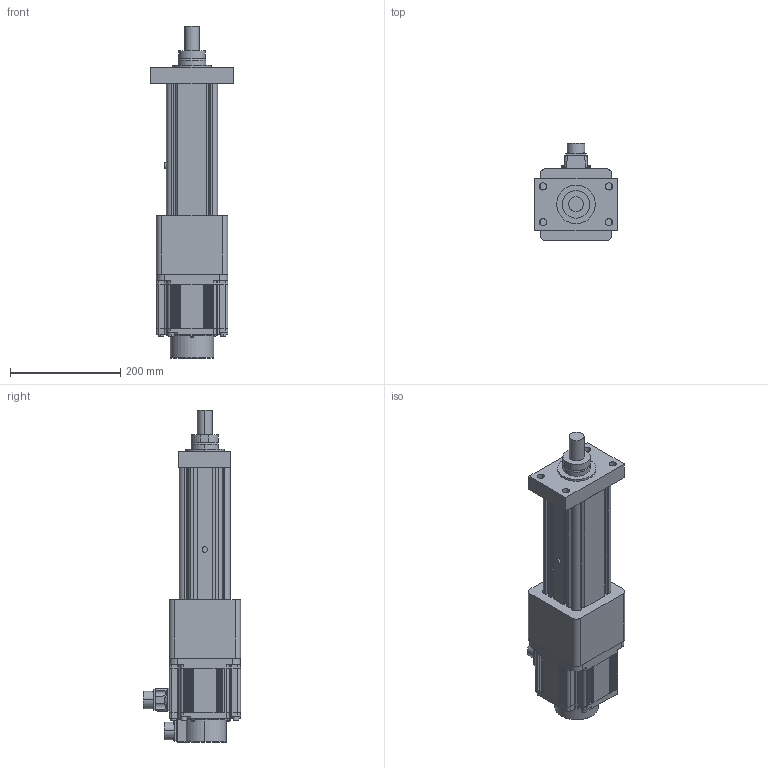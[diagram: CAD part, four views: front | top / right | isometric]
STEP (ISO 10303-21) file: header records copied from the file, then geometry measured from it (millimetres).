
FILE_DESCRIPTION (( 'STEP AP203' ), '1' );
FILE_NAME ('S4眻盄ヶ楊擘假蚾.STEP', '2024-05-27T05:29:17', ( '' ), ( '' ), 'SwSTEP 2.0', 'SolidWorks 2018', '' );
FILE_SCHEMA (( 'CONFIG_CONTROL_DESIGN' ));
Length unit declared in the file: millimetre
Products named in the file (3): S4眻盄ヶ楊擘假蚾; S4眻盄ヶ楊擘; ECMA-FX1308ES-130框號系列機種-0.85KW高慣量系列
Assembly tree (2 placements, depth 2):
  S4眻盄ヶ楊擘假蚾
    S4眻盄ヶ楊擘
    ECMA-FX1308ES-130框號系列機種-0.85KW高慣量系列
Bounding box: 150 x 176.44 x 603.5 mm (x, y, z)
Volume: 4779180.2 mm3; surface area: 540093 mm2
Topology: 3 solids, 15 shells, 924 faces, 2208 edges, 1370 vertices
Faces by surface type: plane 402, cylinder 353, cone 101, torus 47, sphere 20, bspline 1
Entity records: 27660 total; most frequent: CARTESIAN_POINT 5363, DIRECTION 4866, ORIENTED_EDGE 4412, EDGE_CURVE 2206, AXIS2_PLACEMENT_3D 1812, VERTEX_POINT 1370, LINE 1242, VECTOR 1242
